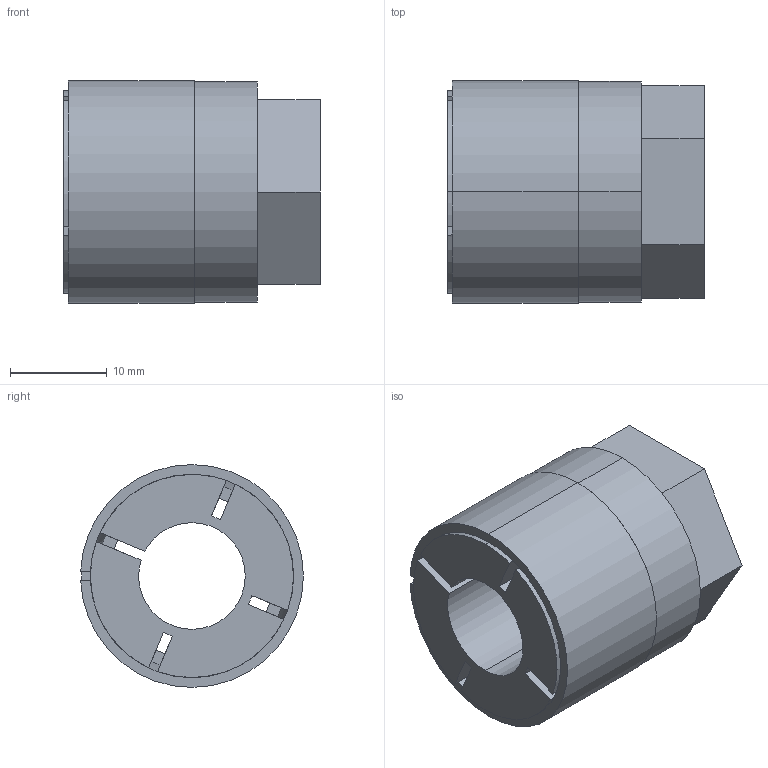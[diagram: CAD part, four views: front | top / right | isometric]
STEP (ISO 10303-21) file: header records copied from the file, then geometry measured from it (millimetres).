
FILE_DESCRIPTION (( 'STEP AP203' ), '1' );
FILE_NAME ('KBS 56 - 11 x 23.STEP', '2015-07-07T20:20:33', ( '' ), ( '' ), 'SwSTEP 2.0', 'SolidWorks 2010', '' );
FILE_SCHEMA (( 'CONFIG_CONTROL_DESIGN' ));
Length unit declared in the file: millimetre
Products named in the file (1): KBS 56 - 11 x 23
Bounding box: 26.5 x 22.99 x 23 mm (x, y, z)
Volume: 7290.2 mm3; surface area: 7344.8 mm2
Topology: 3 solids, 3 shells, 53 faces, 138 edges, 92 vertices
Faces by surface type: plane 30, cylinder 15, cone 8
Entity records: 1731 total; most frequent: CARTESIAN_POINT 320, DIRECTION 282, ORIENTED_EDGE 276, EDGE_CURVE 138, AXIS2_PLACEMENT_3D 100, VERTEX_POINT 92, LINE 82, VECTOR 82
